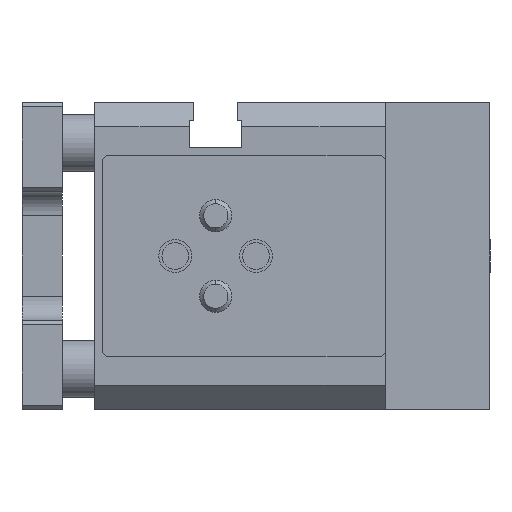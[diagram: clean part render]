
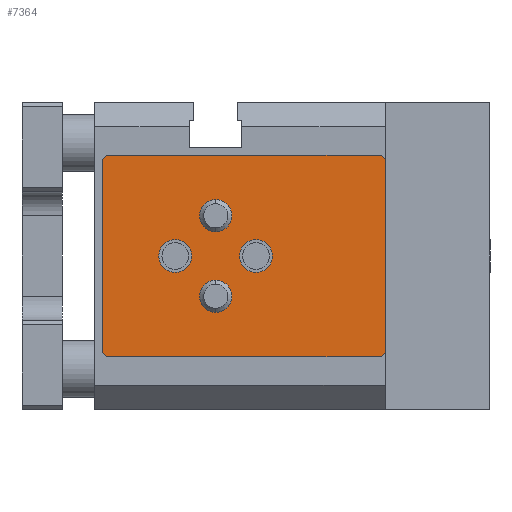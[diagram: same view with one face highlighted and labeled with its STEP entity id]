
A CAD part, left-side view. The second image highlights one B-rep face of the part: STEP entity #7364.
In plain terms, the highlighted planar face has unit normal (-1, 0, 0) as drawn and (1, 0, 0) by its records, which use the part's own axes.
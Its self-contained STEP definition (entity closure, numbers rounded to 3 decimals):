
#84 = VERTEX_POINT ( 'NONE', #16823 ) ;
#161 = DIRECTION ( 'NONE',  ( 0., -0.707, 0.707 ) ) ;
#705 = FACE_OUTER_BOUND ( 'NONE', #39242, .T. ) ;
#721 = CARTESIAN_POINT ( 'NONE',  ( 0., 34.5, -12.5 ) ) ;
#984 = VECTOR ( 'NONE', #30253, 1000. ) ;
#1729 = EDGE_CURVE ( 'NONE', #43618, #84, #12993, .T. ) ;
#1983 = FACE_BOUND ( 'NONE', #37386, .T. ) ;
#2127 = CARTESIAN_POINT ( 'NONE',  ( 0., 35., 12. ) ) ;
#2360 = VECTOR ( 'NONE', #35336, 1000. ) ;
#2513 = VERTEX_POINT ( 'NONE', #10249 ) ;
#2551 = ORIENTED_EDGE ( 'NONE', *, *, #18506, .F. ) ;
#2568 = CARTESIAN_POINT ( 'NONE',  ( 0., 34.5, 12.5 ) ) ;
#2681 = CARTESIAN_POINT ( 'NONE',  ( 0., 0., -12. ) ) ;
#2722 = DIRECTION ( 'NONE',  ( 1., 0., 0. ) ) ;
#2852 = ORIENTED_EDGE ( 'NONE', *, *, #30894, .F. ) ;
#3038 = EDGE_CURVE ( 'NONE', #40099, #2513, #23690, .T. ) ;
#3157 = DIRECTION ( 'NONE',  ( 1., 0., 0. ) ) ;
#3216 = DIRECTION ( 'NONE',  ( 1., 0., 0. ) ) ;
#3939 = AXIS2_PLACEMENT_3D ( 'NONE', #4845, #33202, #8936 ) ;
#4203 = ORIENTED_EDGE ( 'NONE', *, *, #38499, .F. ) ;
#4828 = EDGE_CURVE ( 'NONE', #39822, #40996, #17929, .T. ) ;
#4845 = CARTESIAN_POINT ( 'NONE',  ( 0., 21., 5. ) ) ;
#4990 = EDGE_LOOP ( 'NONE', ( #6323, #27152 ) ) ;
#5918 = CARTESIAN_POINT ( 'NONE',  ( 0., 21., -3. ) ) ;
#6240 = ORIENTED_EDGE ( 'NONE', *, *, #22467, .F. ) ;
#6323 = ORIENTED_EDGE ( 'NONE', *, *, #38630, .F. ) ;
#6591 = ORIENTED_EDGE ( 'NONE', *, *, #48065, .F. ) ;
#6981 = CARTESIAN_POINT ( 'NONE',  ( 0., 35., 12.5 ) ) ;
#7364 = ADVANCED_FACE ( 'NONE', ( #11471, #705, #1983, #31750, #42568 ), #21307, .F. ) ;
#7939 = AXIS2_PLACEMENT_3D ( 'NONE', #11028, #39413, #15081 ) ;
#8504 = EDGE_CURVE ( 'NONE', #40996, #15654, #45345, .T. ) ;
#8936 = DIRECTION ( 'NONE',  ( 0., 0., 1. ) ) ;
#8990 = ORIENTED_EDGE ( 'NONE', *, *, #41500, .F. ) ;
#9200 = CARTESIAN_POINT ( 'NONE',  ( 0., 0., -12.5 ) ) ;
#9525 = ORIENTED_EDGE ( 'NONE', *, *, #4828, .F. ) ;
#10249 = CARTESIAN_POINT ( 'NONE',  ( 0., 26., -2.05 ) ) ;
#11028 = CARTESIAN_POINT ( 'NONE',  ( 0., 16., 0. ) ) ;
#11429 = CARTESIAN_POINT ( 'NONE',  ( 0., 26., 0. ) ) ;
#11471 = FACE_BOUND ( 'NONE', #4990, .T. ) ;
#12038 = ORIENTED_EDGE ( 'NONE', *, *, #8504, .F. ) ;
#12158 = AXIS2_PLACEMENT_3D ( 'NONE', #49706, #13002, #29459 ) ;
#12572 = DIRECTION ( 'NONE',  ( 0., 1., 0. ) ) ;
#12585 = CIRCLE ( 'NONE', #39628, 2. ) ;
#12933 = EDGE_CURVE ( 'NONE', #31559, #39822, #27951, .T. ) ;
#12993 = CIRCLE ( 'NONE', #3939, 2. ) ;
#13002 = DIRECTION ( 'NONE',  ( -1., 0., 0. ) ) ;
#13941 = CARTESIAN_POINT ( 'NONE',  ( 0., 21., -5. ) ) ;
#14368 = EDGE_CURVE ( 'NONE', #48060, #37832, #44448, .T. ) ;
#14996 = CARTESIAN_POINT ( 'NONE',  ( 0., 34.5, -12.5 ) ) ;
#15081 = DIRECTION ( 'NONE',  ( 0., 0., -1. ) ) ;
#15124 = VERTEX_POINT ( 'NONE', #5918 ) ;
#15487 = DIRECTION ( 'NONE',  ( 0., 0., -1. ) ) ;
#15654 = VERTEX_POINT ( 'NONE', #2568 ) ;
#16142 = CARTESIAN_POINT ( 'NONE',  ( 0., 26., 2.05 ) ) ;
#16413 = ORIENTED_EDGE ( 'NONE', *, *, #3038, .F. ) ;
#16750 = CARTESIAN_POINT ( 'NONE',  ( 0., 35., 12. ) ) ;
#16823 = CARTESIAN_POINT ( 'NONE',  ( 0., 21., 7. ) ) ;
#16853 = ORIENTED_EDGE ( 'NONE', *, *, #1729, .F. ) ;
#16903 = AXIS2_PLACEMENT_3D ( 'NONE', #45002, #20652, #49062 ) ;
#17031 = CIRCLE ( 'NONE', #17091, 2.05 ) ;
#17091 = AXIS2_PLACEMENT_3D ( 'NONE', #27442, #3216, #31522 ) ;
#17883 = CIRCLE ( 'NONE', #16903, 2. ) ;
#17929 = LINE ( 'NONE', #44546, #29950 ) ;
#18009 = DIRECTION ( 'NONE',  ( 0., 0., 1. ) ) ;
#18506 = EDGE_CURVE ( 'NONE', #33100, #42740, #32253, .T. ) ;
#18697 = CARTESIAN_POINT ( 'NONE',  ( 0., 0.5, -12.5 ) ) ;
#20023 = EDGE_LOOP ( 'NONE', ( #6591, #16413 ) ) ;
#20221 = DIRECTION ( 'NONE',  ( 0., 0.707, 0.707 ) ) ;
#20652 = DIRECTION ( 'NONE',  ( 1., 0., 0. ) ) ;
#21307 = PLANE ( 'NONE',  #12158 ) ;
#22047 = LINE ( 'NONE', #40582, #32868 ) ;
#22467 = EDGE_CURVE ( 'NONE', #84, #43618, #40973, .T. ) ;
#22508 = LINE ( 'NONE', #2127, #984 ) ;
#22820 = VECTOR ( 'NONE', #24963, 1000. ) ;
#22855 = EDGE_CURVE ( 'NONE', #51435, #15654, #22508, .T. ) ;
#23507 = CARTESIAN_POINT ( 'NONE',  ( 0., 0., 12.5 ) ) ;
#23690 = CIRCLE ( 'NONE', #49128, 2.05 ) ;
#23717 = VECTOR ( 'NONE', #12572, 1000. ) ;
#23830 = VECTOR ( 'NONE', #49788, 1000. ) ;
#24963 = DIRECTION ( 'NONE',  ( 0., 0.707, 0.707 ) ) ;
#25773 = CARTESIAN_POINT ( 'NONE',  ( 0., 16., 2.05 ) ) ;
#26952 = CARTESIAN_POINT ( 'NONE',  ( 0., 21., 5. ) ) ;
#27152 = ORIENTED_EDGE ( 'NONE', *, *, #50073, .F. ) ;
#27392 = CARTESIAN_POINT ( 'NONE',  ( 0., 26., 0. ) ) ;
#27442 = CARTESIAN_POINT ( 'NONE',  ( 0., 16., 0. ) ) ;
#27951 = LINE ( 'NONE', #23507, #38779 ) ;
#29459 = DIRECTION ( 'NONE',  ( 0., 0., 1. ) ) ;
#29645 = CARTESIAN_POINT ( 'NONE',  ( 0., 0., 12. ) ) ;
#29950 = VECTOR ( 'NONE', #20221, 1000. ) ;
#30174 = ORIENTED_EDGE ( 'NONE', *, *, #14368, .T. ) ;
#30253 = DIRECTION ( 'NONE',  ( 0., -0.707, 0.707 ) ) ;
#30894 = EDGE_CURVE ( 'NONE', #42740, #33100, #17031, .T. ) ;
#30984 = ORIENTED_EDGE ( 'NONE', *, *, #39948, .F. ) ;
#31032 = DIRECTION ( 'NONE',  ( 0., 0., 1. ) ) ;
#31466 = DIRECTION ( 'NONE',  ( 0., 0., -1. ) ) ;
#31522 = DIRECTION ( 'NONE',  ( 0., 0., -1. ) ) ;
#31559 = VERTEX_POINT ( 'NONE', #2681 ) ;
#31750 = FACE_BOUND ( 'NONE', #20023, .T. ) ;
#32253 = CIRCLE ( 'NONE', #7939, 2.05 ) ;
#32868 = VECTOR ( 'NONE', #161, 1000. ) ;
#32951 = CARTESIAN_POINT ( 'NONE',  ( 0., 0., 12.5 ) ) ;
#33100 = VERTEX_POINT ( 'NONE', #42920 ) ;
#33202 = DIRECTION ( 'NONE',  ( 1., 0., 0. ) ) ;
#33385 = LINE ( 'NONE', #9200, #23830 ) ;
#35336 = DIRECTION ( 'NONE',  ( 0., 0., -1. ) ) ;
#35938 = DIRECTION ( 'NONE',  ( 0., 0., 1. ) ) ;
#36265 = AXIS2_PLACEMENT_3D ( 'NONE', #27392, #3157, #31466 ) ;
#37386 = EDGE_LOOP ( 'NONE', ( #2551, #2852 ) ) ;
#37832 = VERTEX_POINT ( 'NONE', #42446 ) ;
#38223 = AXIS2_PLACEMENT_3D ( 'NONE', #26952, #2722, #31032 ) ;
#38499 = EDGE_CURVE ( 'NONE', #40686, #31559, #22047, .T. ) ;
#38630 = EDGE_CURVE ( 'NONE', #15124, #48152, #12585, .T. ) ;
#38779 = VECTOR ( 'NONE', #35938, 1000. ) ;
#38905 = CIRCLE ( 'NONE', #36265, 2.05 ) ;
#39242 = EDGE_LOOP ( 'NONE', ( #4203, #8990, #30174, #30984, #41983, #12038, #9525, #46884 ) ) ;
#39413 = DIRECTION ( 'NONE',  ( 1., 0., 0. ) ) ;
#39628 = AXIS2_PLACEMENT_3D ( 'NONE', #13941, #42313, #18009 ) ;
#39793 = DIRECTION ( 'NONE',  ( 1., 0., 0. ) ) ;
#39822 = VERTEX_POINT ( 'NONE', #29645 ) ;
#39948 = EDGE_CURVE ( 'NONE', #51435, #37832, #44239, .T. ) ;
#40099 = VERTEX_POINT ( 'NONE', #16142 ) ;
#40148 = CARTESIAN_POINT ( 'NONE',  ( 0., 21., 3. ) ) ;
#40582 = CARTESIAN_POINT ( 'NONE',  ( 0., 0.5, -12.5 ) ) ;
#40686 = VERTEX_POINT ( 'NONE', #18697 ) ;
#40973 = CIRCLE ( 'NONE', #38223, 2. ) ;
#40979 = CARTESIAN_POINT ( 'NONE',  ( 0., 0.5, 12.5 ) ) ;
#40996 = VERTEX_POINT ( 'NONE', #40979 ) ;
#41500 = EDGE_CURVE ( 'NONE', #48060, #40686, #33385, .T. ) ;
#41983 = ORIENTED_EDGE ( 'NONE', *, *, #22855, .T. ) ;
#42313 = DIRECTION ( 'NONE',  ( 1., 0., 0. ) ) ;
#42446 = CARTESIAN_POINT ( 'NONE',  ( 0., 35., -12. ) ) ;
#42568 = FACE_BOUND ( 'NONE', #47748, .T. ) ;
#42740 = VERTEX_POINT ( 'NONE', #25773 ) ;
#42920 = CARTESIAN_POINT ( 'NONE',  ( 0., 16., -2.05 ) ) ;
#43618 = VERTEX_POINT ( 'NONE', #40148 ) ;
#44239 = LINE ( 'NONE', #6981, #2360 ) ;
#44448 = LINE ( 'NONE', #721, #22820 ) ;
#44546 = CARTESIAN_POINT ( 'NONE',  ( 0., 0., 12. ) ) ;
#45002 = CARTESIAN_POINT ( 'NONE',  ( 0., 21., -5. ) ) ;
#45345 = LINE ( 'NONE', #32951, #23717 ) ;
#46884 = ORIENTED_EDGE ( 'NONE', *, *, #12933, .F. ) ;
#47748 = EDGE_LOOP ( 'NONE', ( #6240, #16853 ) ) ;
#48060 = VERTEX_POINT ( 'NONE', #14996 ) ;
#48065 = EDGE_CURVE ( 'NONE', #2513, #40099, #38905, .T. ) ;
#48152 = VERTEX_POINT ( 'NONE', #48171 ) ;
#48171 = CARTESIAN_POINT ( 'NONE',  ( 0., 21., -7. ) ) ;
#49062 = DIRECTION ( 'NONE',  ( 0., 0., 1. ) ) ;
#49128 = AXIS2_PLACEMENT_3D ( 'NONE', #11429, #39793, #15487 ) ;
#49706 = CARTESIAN_POINT ( 'NONE',  ( 0., 35., 12.5 ) ) ;
#49788 = DIRECTION ( 'NONE',  ( 0., -1., 0. ) ) ;
#50073 = EDGE_CURVE ( 'NONE', #48152, #15124, #17883, .T. ) ;
#51435 = VERTEX_POINT ( 'NONE', #16750 ) ;
